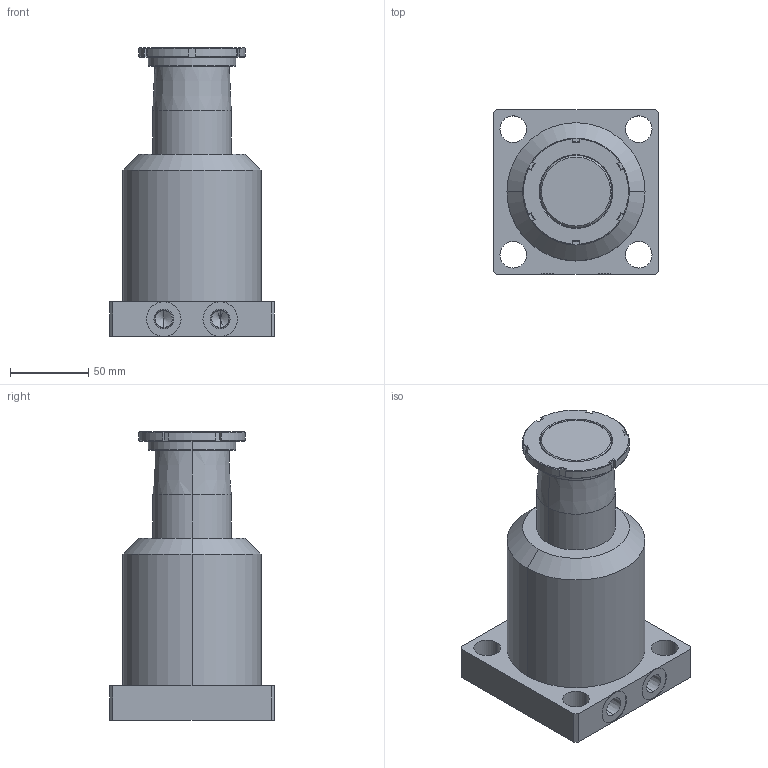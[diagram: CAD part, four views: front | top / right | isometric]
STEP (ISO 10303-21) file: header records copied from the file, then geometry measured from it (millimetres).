
FILE_DESCRIPTION (( 'STEP AP203' ), '1' );
FILE_NAME ('4120 626 629.STEP', '2016-01-28T11:37:47', ( '' ), ( '' ), 'SwSTEP 2.0', 'SolidWorks 2015', '' );
FILE_SCHEMA (( 'CONFIG_CONTROL_DESIGN' ));
Length unit declared in the file: millimetre
Products named in the file (1): 4120 626 629
Bounding box: 105 x 105 x 184 mm (x, y, z)
Volume: 919323.8 mm3; surface area: 75255.5 mm2
Topology: 1 solids, 2 shells, 124 faces, 294 edges, 179 vertices
Faces by surface type: plane 55, cylinder 33, cone 32, torus 4
Entity records: 3634 total; most frequent: CARTESIAN_POINT 666, DIRECTION 621, ORIENTED_EDGE 580, EDGE_CURVE 290, AXIS2_PLACEMENT_3D 230, VERTEX_POINT 179, VECTOR 161, LINE 161
